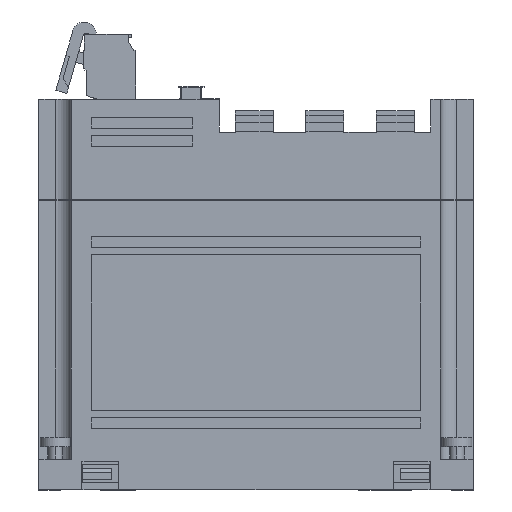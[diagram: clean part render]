
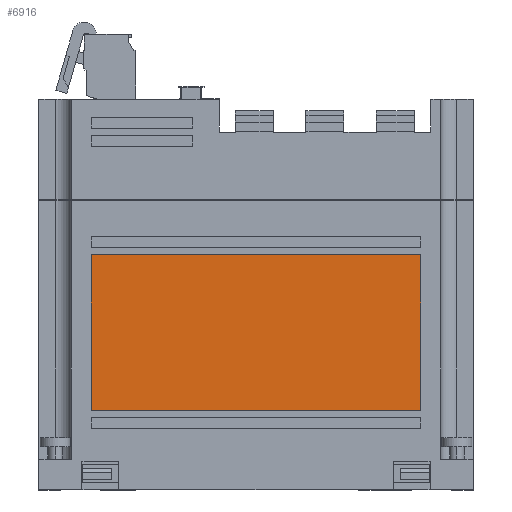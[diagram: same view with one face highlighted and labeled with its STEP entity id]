
A CAD part, front view. The second image highlights one B-rep face of the part: STEP entity #6916.
In plain terms, the highlighted planar face has unit normal (0, -1, 0).
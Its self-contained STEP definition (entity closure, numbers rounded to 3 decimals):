
#6861 = EDGE_CURVE ( 'NONE', #6862, #6886, #23050, .T. ) ;
#6862 = VERTEX_POINT ( 'NONE', #23046 ) ;
#6870 = EDGE_CURVE ( 'NONE', #6871, #6862, #23035, .T. ) ;
#6871 = VERTEX_POINT ( 'NONE', #23097 ) ;
#6886 = VERTEX_POINT ( 'NONE', #23076 ) ;
#6914 = EDGE_CURVE ( 'NONE', #6886, #6931, #23156, .T. ) ;
#6916 = ADVANCED_FACE ( 'NONE', ( #23152 ), #23151, .F. ) ;
#6917 = EDGE_LOOP ( 'NONE', ( #6918, #6919, #6920, #6921 ) ) ;
#6918 = ORIENTED_EDGE ( 'NONE', *, *, #6861, .T. ) ;
#6919 = ORIENTED_EDGE ( 'NONE', *, *, #6914, .T. ) ;
#6920 = ORIENTED_EDGE ( 'NONE', *, *, #6930, .T. ) ;
#6921 = ORIENTED_EDGE ( 'NONE', *, *, #6870, .T. ) ;
#6930 = EDGE_CURVE ( 'NONE', #6931, #6871, #23137, .T. ) ;
#6931 = VERTEX_POINT ( 'NONE', #23195 ) ;
#23033 = VECTOR ( 'NONE', #23098, 1000. ) ;
#23034 = CARTESIAN_POINT ( 'NONE',  ( 105.5, -67.5, 22. ) ) ;
#23035 = LINE ( 'NONE', #23034, #23033 ) ;
#23046 = CARTESIAN_POINT ( 'NONE',  ( 105.5, -67.5, 22. ) ) ;
#23047 = DIRECTION ( 'NONE',  ( 0., 0., 1. ) ) ;
#23048 = VECTOR ( 'NONE', #23047, 1000. ) ;
#23049 = CARTESIAN_POINT ( 'NONE',  ( 105.5, -67.5, 65. ) ) ;
#23050 = LINE ( 'NONE', #23049, #23048 ) ;
#23076 = CARTESIAN_POINT ( 'NONE',  ( 105.5, -67.5, 65. ) ) ;
#23097 = CARTESIAN_POINT ( 'NONE',  ( 14.5, -67.5, 22. ) ) ;
#23098 = DIRECTION ( 'NONE',  ( 1., 0., 0. ) ) ;
#23130 = DIRECTION ( 'NONE',  ( 0., 0., -1. ) ) ;
#23131 = VECTOR ( 'NONE', #23130, 1000. ) ;
#23132 = CARTESIAN_POINT ( 'NONE',  ( 14.5, -67.5, 65. ) ) ;
#23137 = LINE ( 'NONE', #23132, #23131 ) ;
#23147 = DIRECTION ( 'NONE',  ( 0., 0., 1. ) ) ;
#23148 = DIRECTION ( 'NONE',  ( 0., 1., 0. ) ) ;
#23149 = CARTESIAN_POINT ( 'NONE',  ( 105.5, -67.5, 65. ) ) ;
#23150 = AXIS2_PLACEMENT_3D ( 'NONE', #23149, #23148, #23147 ) ;
#23151 = PLANE ( 'NONE',  #23150 ) ;
#23152 = FACE_OUTER_BOUND ( 'NONE', #6917, .T. ) ;
#23153 = DIRECTION ( 'NONE',  ( -1., 0., 0. ) ) ;
#23154 = VECTOR ( 'NONE', #23153, 1000. ) ;
#23155 = CARTESIAN_POINT ( 'NONE',  ( 105.5, -67.5, 65. ) ) ;
#23156 = LINE ( 'NONE', #23155, #23154 ) ;
#23195 = CARTESIAN_POINT ( 'NONE',  ( 14.5, -67.5, 65. ) ) ;
